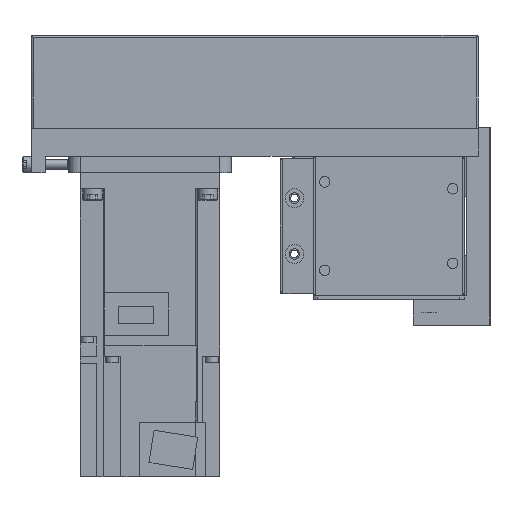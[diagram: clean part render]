
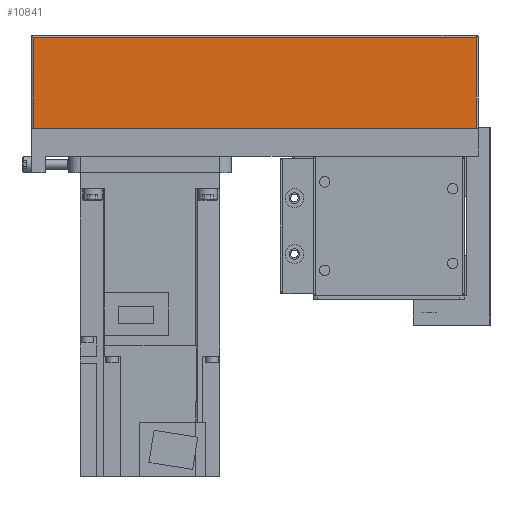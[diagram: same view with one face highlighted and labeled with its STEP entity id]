
A CAD part, left-side view. The second image highlights one B-rep face of the part: STEP entity #10841.
In plain terms, the highlighted planar face has unit normal (-1, 0, 0) as drawn and (1, 0, 0) by its records, which use the part's own axes.
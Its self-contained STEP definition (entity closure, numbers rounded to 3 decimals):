
#2514=ORIENTED_EDGE('',*,*,#4583,.T.);
#2515=ORIENTED_EDGE('',*,*,#4584,.T.);
#2516=ORIENTED_EDGE('',*,*,#4585,.F.);
#2517=ORIENTED_EDGE('',*,*,#4586,.F.);
#4583=EDGE_CURVE('',#5806,#5807,#6846,.T.);
#4584=EDGE_CURVE('',#5807,#5808,#6847,.T.);
#4585=EDGE_CURVE('',#5809,#5808,#6848,.T.);
#4586=EDGE_CURVE('',#5806,#5809,#6849,.T.);
#5806=VERTEX_POINT('',#17391);
#5807=VERTEX_POINT('',#17392);
#5808=VERTEX_POINT('',#17394);
#5809=VERTEX_POINT('',#17396);
#6846=LINE('',#17390,#7894);
#6847=LINE('',#17393,#7895);
#6848=LINE('',#17395,#7896);
#6849=LINE('',#17397,#7897);
#7894=VECTOR('',#14209,1000.);
#7895=VECTOR('',#14210,1000.);
#7896=VECTOR('',#14211,1000.);
#7897=VECTOR('',#14212,1000.);
#8889=EDGE_LOOP('',(#2514,#2515,#2516,#2517));
#9763=FACE_BOUND('',#8889,.T.);
#10311=PLANE('',#11825);
#10841=ADVANCED_FACE('',(#9763),#10311,.T.);
#11825=AXIS2_PLACEMENT_3D('',#17389,#14207,#14208);
#14207=DIRECTION('',(1.,0.,0.));
#14208=DIRECTION('',(0.,0.,-1.));
#14209=DIRECTION('',(0.,0.,1.));
#14210=DIRECTION('',(0.,-1.,0.));
#14211=DIRECTION('',(0.,0.,1.));
#14212=DIRECTION('',(0.,-1.,0.));
#17389=CARTESIAN_POINT('',(40.,-41.,-52.));
#17390=CARTESIAN_POINT('',(40.,150.,-64.));
#17391=CARTESIAN_POINT('',(40.,150.,-51.));
#17392=CARTESIAN_POINT('',(40.,150.,-12.01));
#17393=CARTESIAN_POINT('',(40.,-41.,-12.01));
#17394=CARTESIAN_POINT('',(40.,-40.,-12.01));
#17395=CARTESIAN_POINT('',(40.,-40.,-64.));
#17396=CARTESIAN_POINT('',(40.,-40.,-51.));
#17397=CARTESIAN_POINT('',(40.,200.,-51.));
